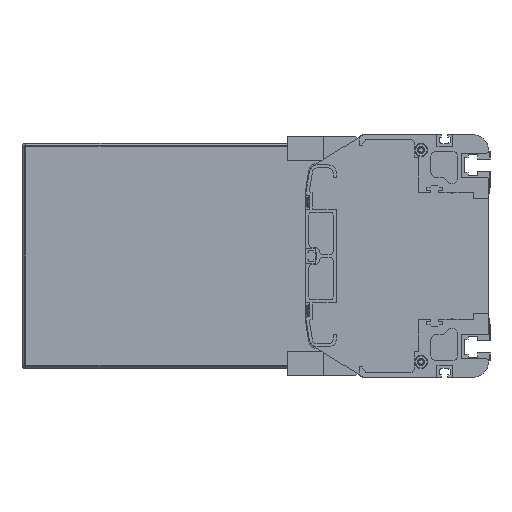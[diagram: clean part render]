
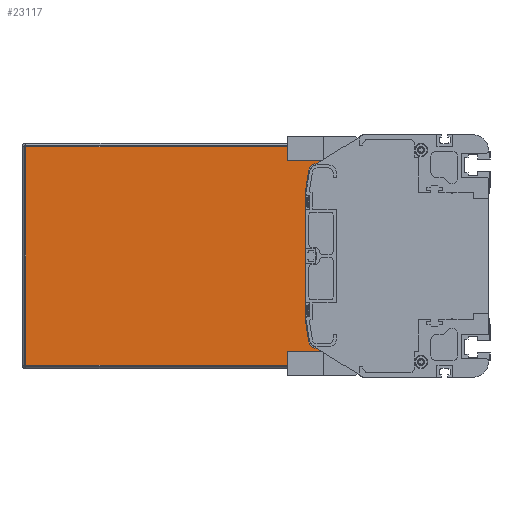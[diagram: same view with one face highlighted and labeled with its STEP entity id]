
A CAD part, left-side view. The second image highlights one B-rep face of the part: STEP entity #23117.
In plain terms, the highlighted planar face has unit normal (-1, 0, 0).
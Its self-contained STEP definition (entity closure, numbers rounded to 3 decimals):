
#1185=DIRECTION('',(0.,0.,-1.));
#1186=VECTOR('',#1185,11.);
#1187=CARTESIAN_POINT('',(2186.5,86.,-61.));
#1188=LINE('',#1187,#1186);
#1194=DIRECTION('',(0.,0.,-1.));
#1195=VECTOR('',#1194,11.);
#1196=CARTESIAN_POINT('',(2186.5,86.,72.));
#1197=LINE('',#1196,#1195);
#1207=DIRECTION('',(0.,-1.,0.));
#1208=VECTOR('',#1207,220.5);
#1209=CARTESIAN_POINT('',(2186.5,306.5,-72.));
#1210=LINE('',#1209,#1208);
#4516=DIRECTION('',(0.,1.,0.));
#4517=VECTOR('',#4516,28.728);
#4518=CARTESIAN_POINT('',(2186.5,86.,-61.));
#4519=LINE('',#4518,#4517);
#4524=CARTESIAN_POINT('',(2186.5,114.728,56.));
#4525=DIRECTION('',(-1.,0.,0.));
#4526=DIRECTION('',(0.,0.,1.));
#4527=AXIS2_PLACEMENT_3D('',#4524,#4525,#4526);
#4529=DIRECTION('',(0.,0.156,-0.988));
#4530=VECTOR('',#4529,14.963);
#4531=CARTESIAN_POINT('',(2186.5,119.666,56.78));
#4532=LINE('',#4531,#4530);
#4533=DIRECTION('',(0.,-0.156,-0.988));
#4534=VECTOR('',#4533,14.963);
#4535=CARTESIAN_POINT('',(2186.5,122.,-42.));
#4536=LINE('',#4535,#4534);
#4537=CARTESIAN_POINT('',(2186.5,114.728,-56.));
#4538=DIRECTION('',(-1.,0.,0.));
#4539=DIRECTION('',(0.,0.988,-0.156));
#4540=AXIS2_PLACEMENT_3D('',#4537,#4538,#4539);
#4546=DIRECTION('',(0.,0.,-1.));
#4547=VECTOR('',#4546,144.);
#4548=CARTESIAN_POINT('',(2186.5,306.5,72.));
#4549=LINE('',#4548,#4547);
#4715=DIRECTION('',(0.,1.,0.));
#4716=VECTOR('',#4715,220.5);
#4717=CARTESIAN_POINT('',(2186.5,86.,72.));
#4718=LINE('',#4717,#4716);
#5301=DIRECTION('',(0.,-1.,0.));
#5302=VECTOR('',#5301,28.728);
#5303=CARTESIAN_POINT('',(2186.5,114.728,61.));
#5304=LINE('',#5303,#5302);
#5317=DIRECTION('',(0.,0.,1.));
#5318=VECTOR('',#5317,84.);
#5319=CARTESIAN_POINT('',(2186.5,122.,-42.));
#5320=LINE('',#5319,#5318);
#14954=CARTESIAN_POINT('',(2186.5,306.5,-72.));
#14955=CARTESIAN_POINT('',(2186.5,86.,-72.));
#14956=VERTEX_POINT('',#14954);
#14957=VERTEX_POINT('',#14955);
#14958=CARTESIAN_POINT('',(2186.5,86.,-61.));
#14959=VERTEX_POINT('',#14958);
#14960=CARTESIAN_POINT('',(2186.5,114.728,-61.));
#14961=VERTEX_POINT('',#14960);
#14962=CARTESIAN_POINT('',(2186.5,119.666,-56.78));
#14963=VERTEX_POINT('',#14962);
#14964=CARTESIAN_POINT('',(2186.5,122.,-42.));
#14965=VERTEX_POINT('',#14964);
#14966=CARTESIAN_POINT('',(2186.5,122.,42.));
#14967=VERTEX_POINT('',#14966);
#14968=CARTESIAN_POINT('',(2186.5,119.666,56.78));
#14969=VERTEX_POINT('',#14968);
#14970=CARTESIAN_POINT('',(2186.5,114.728,61.));
#14971=VERTEX_POINT('',#14970);
#14972=CARTESIAN_POINT('',(2186.5,86.,61.));
#14973=VERTEX_POINT('',#14972);
#14974=CARTESIAN_POINT('',(2186.5,86.,72.));
#14975=VERTEX_POINT('',#14974);
#14976=CARTESIAN_POINT('',(2186.5,306.5,72.));
#14977=VERTEX_POINT('',#14976);
#23090=CARTESIAN_POINT('',(2186.5,196.25,0.));
#23091=DIRECTION('',(1.,0.,0.));
#23092=DIRECTION('',(0.,0.,-1.));
#23093=AXIS2_PLACEMENT_3D('',#23090,#23091,#23092);
#23094=PLANE('',#23093);
#23095=ORIENTED_EDGE('',*,*,#19352,.F.);
#23097=ORIENTED_EDGE('',*,*,#23096,.F.);
#23099=ORIENTED_EDGE('',*,*,#23098,.F.);
#23100=ORIENTED_EDGE('',*,*,#19334,.T.);
#23102=ORIENTED_EDGE('',*,*,#23101,.F.);
#23104=ORIENTED_EDGE('',*,*,#23103,.T.);
#23106=ORIENTED_EDGE('',*,*,#23105,.T.);
#23108=ORIENTED_EDGE('',*,*,#23107,.F.);
#23110=ORIENTED_EDGE('',*,*,#23109,.T.);
#23112=ORIENTED_EDGE('',*,*,#23111,.T.);
#23113=ORIENTED_EDGE('',*,*,#23082,.F.);
#23114=ORIENTED_EDGE('',*,*,#19302,.T.);
#23115=EDGE_LOOP('',(#23095,#23097,#23099,#23100,#23102,#23104,#23106,#23108,
#23110,#23112,#23113,#23114));
#23116=FACE_OUTER_BOUND('',#23115,.F.);
#23117=ADVANCED_FACE('',(#23116),#23094,.F.);
#4528=CIRCLE('',#4527,5.);
#4541=CIRCLE('',#4540,5.);
#19302=EDGE_CURVE('',#14959,#14957,#1188,.T.);
#19334=EDGE_CURVE('',#14975,#14973,#1197,.T.);
#19352=EDGE_CURVE('',#14956,#14957,#1210,.T.);
#23082=EDGE_CURVE('',#14959,#14961,#4519,.T.);
#23096=EDGE_CURVE('',#14977,#14956,#4549,.T.);
#23098=EDGE_CURVE('',#14975,#14977,#4718,.T.);
#23101=EDGE_CURVE('',#14971,#14973,#5304,.T.);
#23103=EDGE_CURVE('',#14971,#14969,#4528,.T.);
#23105=EDGE_CURVE('',#14969,#14967,#4532,.T.);
#23107=EDGE_CURVE('',#14965,#14967,#5320,.T.);
#23109=EDGE_CURVE('',#14965,#14963,#4536,.T.);
#23111=EDGE_CURVE('',#14963,#14961,#4541,.T.);
